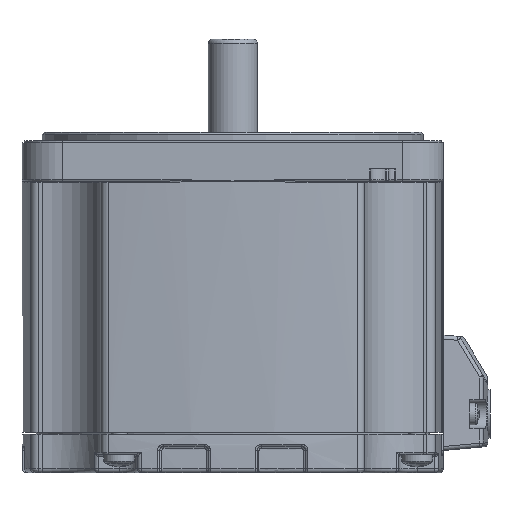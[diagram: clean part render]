
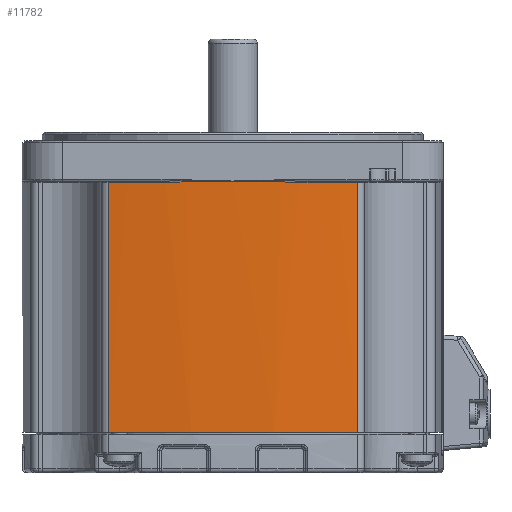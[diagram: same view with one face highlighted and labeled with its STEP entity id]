
A CAD part, left-side view. The second image highlights one B-rep face of the part: STEP entity #11782.
In plain terms, the highlighted cylindrical face has radius 230 mm (diameter 460 mm), a partial arc.
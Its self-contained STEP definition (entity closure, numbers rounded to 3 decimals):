
#5468=CARTESIAN_POINT('',(-101.933,21.232,-36.228));
#5469=VERTEX_POINT('',#5468);
#5477=CARTESIAN_POINT('',(-101.933,82.768,-36.228));
#5478=VERTEX_POINT('',#5477);
#5479=CARTESIAN_POINT('',(126.,52.,-36.228));
#5480=DIRECTION('',(0.,0.,1.0));
#5481=DIRECTION('',(-0.99,-0.141,0.));
#5482=AXIS2_PLACEMENT_3D('',#5479,#5480,#5481);
#5483=CIRCLE('',#5482,230.);
#5484=EDGE_CURVE('',#5478,#5469,#5483,.T.);
#6608=CARTESIAN_POINT('',(-101.933,82.768,25.472));
#6609=VERTEX_POINT('',#6608);
#6642=CARTESIAN_POINT('',(-103.401,68.592,25.472));
#6643=VERTEX_POINT('',#6642);
#6661=CARTESIAN_POINT('',(126.,52.,25.472));
#6662=DIRECTION('',(0.,0.,1.));
#6663=DIRECTION('',(-0.996,0.092,0.));
#6664=AXIS2_PLACEMENT_3D('',#6661,#6662,#6663);
#6665=CIRCLE('',#6664,230.);
#6666=EDGE_CURVE('',#6609,#6643,#6665,.T.);
#6736=CARTESIAN_POINT('',(-103.701,63.728,25.552));
#6737=VERTEX_POINT('',#6736);
#6738=CARTESIAN_POINT('',(-104.,52.,25.772));
#6739=VERTEX_POINT('',#6738);
#6740=CARTESIAN_POINT('',(-103.701,63.728,25.552));
#6741=CARTESIAN_POINT('',(-103.899,59.841,25.667));
#6742=CARTESIAN_POINT('',(-103.999,55.948,25.711));
#6743=CARTESIAN_POINT('',(-104.,52.036,25.771));
#6744=CARTESIAN_POINT('',(-104.,52.018,25.771));
#6745=CARTESIAN_POINT('',(-104.,52.,25.772));
#6746=B_SPLINE_CURVE_WITH_KNOTS('',3,(#6740,#6741,#6742,#6743,#6744,#6745),.UNSPECIFIED.,.F.,.U.,(4,2,4),(-1.17,0.0,0.005),.UNSPECIFIED.);
#6747=EDGE_CURVE('',#6737,#6739,#6746,.T.);
#6800=CARTESIAN_POINT('',(-103.401,68.592,25.472));
#6801=CARTESIAN_POINT('',(-103.518,66.971,25.472));
#6802=CARTESIAN_POINT('',(-103.618,65.35,25.504));
#6803=CARTESIAN_POINT('',(-103.701,63.728,25.552));
#6804=B_SPLINE_CURVE_WITH_KNOTS('',3,(#6800,#6801,#6802,#6803),.UNSPECIFIED.,.F.,.U.,(4,4),(0.,0.488),.UNSPECIFIED.);
#6805=EDGE_CURVE('',#6643,#6737,#6804,.T.);
#7030=CARTESIAN_POINT('',(-103.701,40.272,25.552));
#7031=VERTEX_POINT('',#7030);
#7050=CARTESIAN_POINT('',(-104.,52.,25.772));
#7051=CARTESIAN_POINT('',(-104.,51.982,25.771));
#7052=CARTESIAN_POINT('',(-104.,51.964,25.771));
#7053=CARTESIAN_POINT('',(-103.999,48.052,25.711));
#7054=CARTESIAN_POINT('',(-103.899,44.159,25.667));
#7055=CARTESIAN_POINT('',(-103.701,40.272,25.552));
#7056=B_SPLINE_CURVE_WITH_KNOTS('',3,(#7050,#7051,#7052,#7053,#7054,#7055),.UNSPECIFIED.,.F.,.U.,(4,2,4),(-1.175,-1.17,0.0),.UNSPECIFIED.);
#7057=EDGE_CURVE('',#6739,#7031,#7056,.T.);
#7069=CARTESIAN_POINT('',(-103.401,35.408,25.472));
#7070=VERTEX_POINT('',#7069);
#7078=CARTESIAN_POINT('',(-101.933,21.232,25.472));
#7079=VERTEX_POINT('',#7078);
#7080=CARTESIAN_POINT('',(126.,52.,25.472));
#7081=DIRECTION('',(0.,0.,1.));
#7082=DIRECTION('',(-0.996,-0.092,0.));
#7083=AXIS2_PLACEMENT_3D('',#7080,#7081,#7082);
#7084=CIRCLE('',#7083,230.);
#7085=EDGE_CURVE('',#7070,#7079,#7084,.T.);
#7336=CARTESIAN_POINT('',(-103.701,40.272,25.552));
#7337=CARTESIAN_POINT('',(-103.618,38.65,25.504));
#7338=CARTESIAN_POINT('',(-103.518,37.029,25.472));
#7339=CARTESIAN_POINT('',(-103.401,35.408,25.472));
#7340=B_SPLINE_CURVE_WITH_KNOTS('',3,(#7336,#7337,#7338,#7339),.UNSPECIFIED.,.F.,.U.,(4,4),(0.,0.488),.UNSPECIFIED.);
#7341=EDGE_CURVE('',#7031,#7070,#7340,.T.);
#11752=CARTESIAN_POINT('',(-101.933,82.768,-36.228));
#11753=DIRECTION('',(0.0,0.0,1.0));
#11754=VECTOR('',#11753,61.7);
#11755=LINE('',#11752,#11754);
#11756=EDGE_CURVE('',#5478,#6609,#11755,.T.);
#11761=CARTESIAN_POINT('',(126.,52.,-36.228));
#11762=DIRECTION('',(0.,0.,1.0));
#11763=DIRECTION('',(-0.99,-0.141,0.));
#11764=AXIS2_PLACEMENT_3D('',#11761,#11762,#11763);
#11765=CYLINDRICAL_SURFACE('',#11764,230.);
#11766=ORIENTED_EDGE('',*,*,#6666,.F.);
#11767=ORIENTED_EDGE('',*,*,#11756,.F.);
#11768=ORIENTED_EDGE('',*,*,#5484,.T.);
#11769=CARTESIAN_POINT('',(-101.933,21.232,25.472));
#11770=DIRECTION('',(0.0,0.0,-1.0));
#11771=VECTOR('',#11770,61.7);
#11772=LINE('',#11769,#11771);
#11773=EDGE_CURVE('',#7079,#5469,#11772,.T.);
#11774=ORIENTED_EDGE('',*,*,#11773,.F.);
#11775=ORIENTED_EDGE('',*,*,#7085,.F.);
#11776=ORIENTED_EDGE('',*,*,#7341,.F.);
#11777=ORIENTED_EDGE('',*,*,#7057,.F.);
#11778=ORIENTED_EDGE('',*,*,#6747,.F.);
#11779=ORIENTED_EDGE('',*,*,#6805,.F.);
#11780=EDGE_LOOP('',(#11766,#11767,#11768,#11774,#11775,#11776,#11777,#11778,#11779));
#11781=FACE_OUTER_BOUND('',#11780,.T.);
#11782=ADVANCED_FACE('',(#11781),#11765,.T.);
